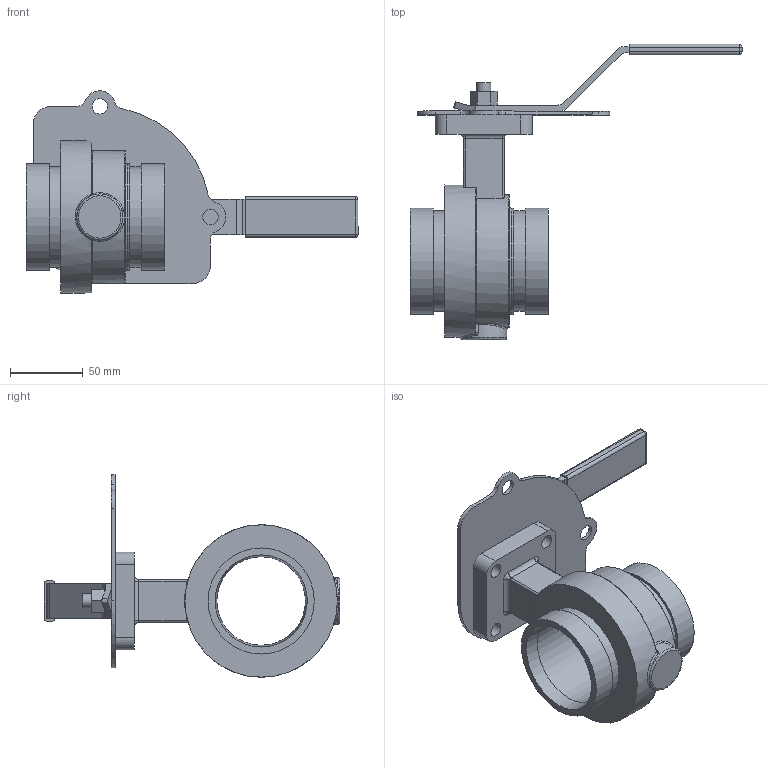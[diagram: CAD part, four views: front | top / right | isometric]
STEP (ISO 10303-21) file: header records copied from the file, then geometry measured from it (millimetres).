
FILE_DESCRIPTION(/* description */ ('Vic Series 461 Vic-300 SS w/ Lever Handle Butterfly Valve','CAx-IF Rec.Pracs.---Representation and Presentation of Product Manufacturing Information (PMI)---4.0---2014-10-13'),/* implementation_level */ '2;1');
FILE_NAME(/* name */ 'C:\Users\kkamble\AppData\Roaming\Autodesk\ApplicationPlugins\Back Up\Victaulic_SS-OGS_Valve Butterfly Vic-300 Masterseal Lever Handle_Series 461 (OGS)\Victaulic_SS-OGS_Valve Butterfly Vic-300 Masterseal Lever Handle_2.5 (65).stp',/* time_stamp */ '2020-09-02T14:52:16+05:00',/* author */ ('jbrannon'),/* organization */ ('Victaulic'),/* preprocessor_version */ 'ST-DEVELOPER v17.2',/* originating_system */ 'Autodesk Inventor 2019',/* authorisation */ '');
FILE_SCHEMA (('AP242_MANAGED_MODEL_BASED_3D_ENGINEERING_MIM_LF { 1 0 10303 442 1 1 4 }'));
Length unit declared in the file: inch
Products named in the file (4): 461-02.5; 461-02.5_1; 461-02.0; 461-02.5_2
Assembly tree (3 placements, depth 2):
  461-02.5
    461-02.5_1
    461-02.0
    461-02.5_2
Bounding box: 228.59 x 203.46 x 139.31 mm (x, y, z)
Volume: 414457 mm3; surface area: 114774 mm2
Topology: 3 solids, 3 shells, 156 faces, 389 edges, 247 vertices
Faces by surface type: cylinder 66, plane 53, bspline 16, torus 13, sphere 6, cone 2
Full cylindrical faces by diameter (mm): 9.652 x10, 10.668 x2, 18.288 x1, 54.102 x1, 60.96 x1, 69.088 x2, 73.025 x3, 91.44 x1, 104.902 x1
Entity records: 5572 total; most frequent: CARTESIAN_POINT 1429, DIRECTION 828, ORIENTED_EDGE 774, EDGE_CURVE 387, AXIS2_PLACEMENT_3D 329, VERTEX_POINT 247, EDGE_LOOP 192, CIRCLE 182
